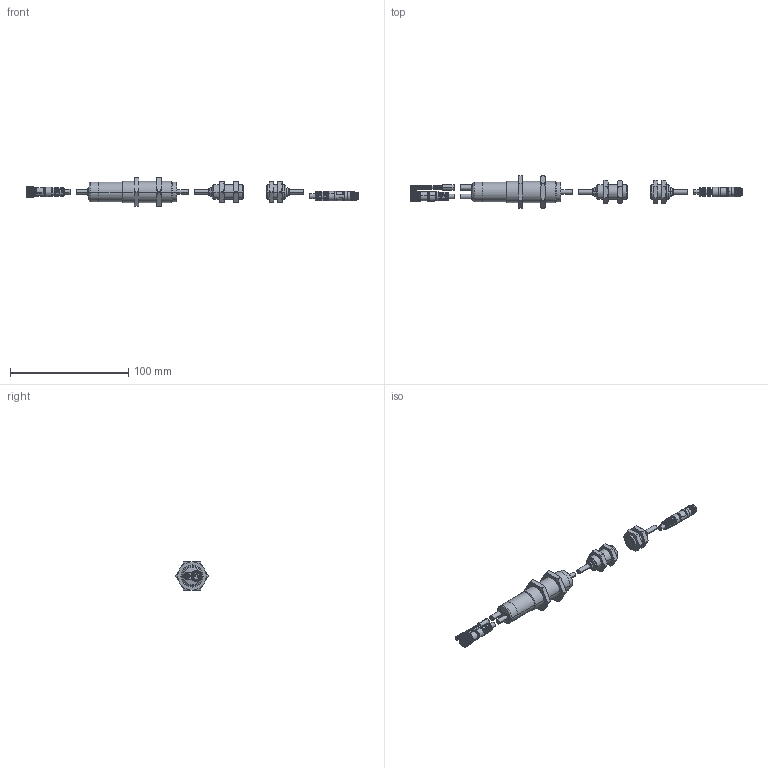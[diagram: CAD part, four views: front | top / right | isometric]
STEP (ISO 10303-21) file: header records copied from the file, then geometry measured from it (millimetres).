
FILE_DESCRIPTION (( 'STEP AP214' ), '1' );
FILE_NAME ('dbk+4_M12_M18 E+S.STEP', '2025-11-14T10:12:12', ( '' ), ( '' ), 'SwSTEP 2.0', 'SolidWorks 2024', '' );
FILE_SCHEMA (( 'AUTOMOTIVE_DESIGN' ));
Length unit declared in the file: millimetre
Products named in the file (9): M18x1 Mutter; dbk+4-Sender_M12_KX; dbk+4_mit Kabelauslass Empf.; M12x1 Mutter; Sensorleitung; dbk+4_M12_M18 E+S; 3pol. Kabelstecker; 3pol. Kabelbuchse; dbk+4_ausg.Empf_M12
Assembly tree (12 placements, depth 2):
  dbk+4_M12_M18 E+S
    dbk+4_mit Kabelauslass Empf.
    M18x1 Mutter  x2
    3pol. Kabelbuchse
    Sensorleitung
    3pol. Kabelstecker
    dbk+4_ausg.Empf_M12
    dbk+4-Sender_M12_KX
    M12x1 Mutter  x4
Bounding box: 280.83 x 27.6 x 24 mm (x, y, z)
Volume: 30740 mm3; surface area: 16127.1 mm2
Topology: 12 solids, 24 shells, 3202 faces, 7023 edges, 3882 vertices
Faces by surface type: bspline 1806, cylinder 756, plane 339, cone 212, torus 59, sphere 30
Entity records: 136760 total; most frequent: CARTESIAN_POINT 58113, ORIENTED_EDGE 13458, EDGE_CURVE 6729, B_SPLINE_CURVE_WITH_KNOTS 5315, DIRECTION 4657, VERTEX_POINT 3714, EDGE_LOOP 3145, FACE_OUTER_BOUND 3092
